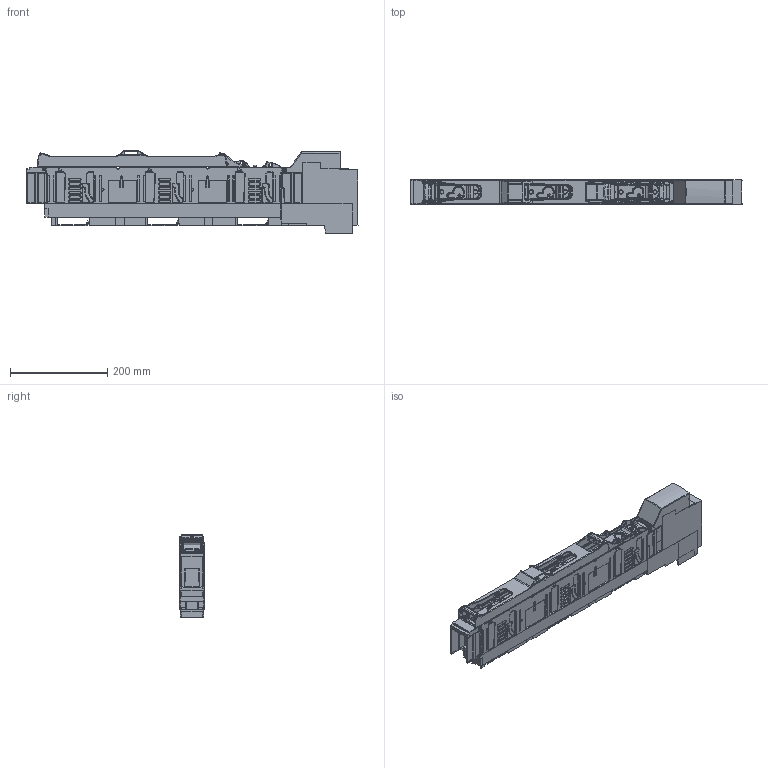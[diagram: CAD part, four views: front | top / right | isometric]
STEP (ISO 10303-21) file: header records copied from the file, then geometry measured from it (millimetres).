
FILE_DESCRIPTION(/* description */ (''),/* implementation_level */ '2;1');
FILE_NAME(/* name */ 'smartARS 00-3.stp',/* time_stamp */ '2018-07-16T09:11:42+02:00',/* author */ (''),/* organization */ (''),/* preprocessor_version */ 'ST-DEVELOPER v16',/* originating_system */ 'SIEMENS PLM Software NX 10.0',/* authorisation */ '');
FILE_SCHEMA (('AUTOMOTIVE_DESIGN { 1 0 10303 214 3 1 1 1 }'));
Products named in the file (1): 710_0AD4EC05y3e1
Bounding box: 684.23 x 50.42 x 169.87 mm (x, y, z)
Volume: 2964475.6 mm3; surface area: 462909.4 mm2
Topology: 1 solids, 4 shells, 6628 faces, 17503 edges, 10885 vertices
Faces by surface type: plane 2358, cylinder 1626, bspline 1570, torus 360, extrusion 306, sphere 245, cone 163
Full cylindrical faces by diameter (mm): 2.9 x1, 3.1 x1, 3.5 x2, 5.6 x1, 6 x5, 8.8 x1, 9 x3, 14.5 x1
Entity records: 259606 total; most frequent: CARTESIAN_POINT 109694, ORIENTED_EDGE 34384, DIRECTION 25869, EDGE_CURVE 17192, VERTEX_POINT 10850, AXIS2_PLACEMENT_3D 8661, VECTOR 8547, LINE 8241
